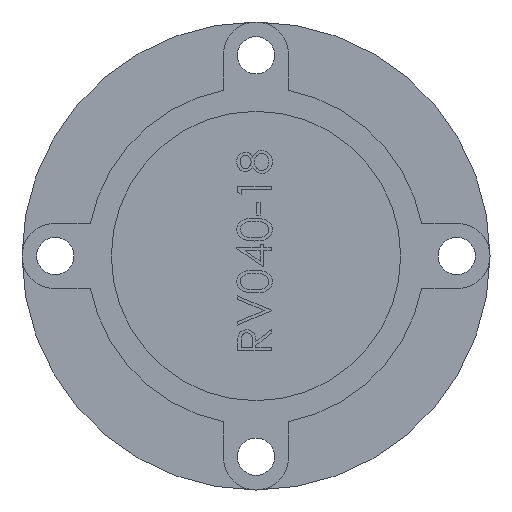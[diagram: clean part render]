
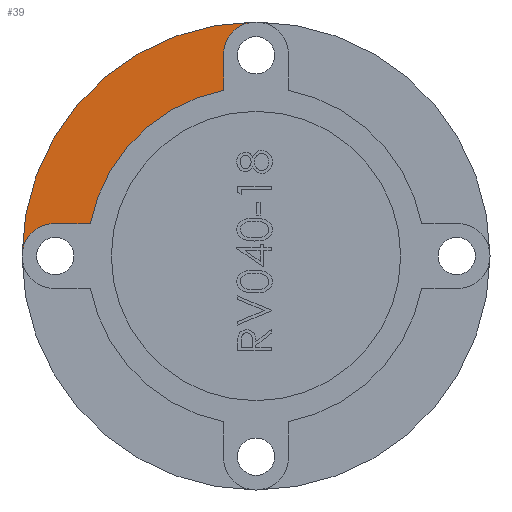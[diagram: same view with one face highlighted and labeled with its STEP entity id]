
A CAD part, left-side view. The second image highlights one B-rep face of the part: STEP entity #39.
In plain terms, the highlighted planar face has unit normal (-1, 0, 0).
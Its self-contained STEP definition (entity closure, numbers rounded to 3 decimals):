
#39 = ADVANCED_FACE ( 'NONE', ( #4384 ), #591, .F. ) ;
#591 = PLANE ( 'NONE',  #4389 ) ;
#592 = CARTESIAN_POINT ( 'NONE',  ( 12.7, 31.75, 0. ) ) ;
#593 = DIRECTION ( 'NONE',  ( 0., 0., -1. ) ) ;
#595 = DIRECTION ( 'NONE',  ( 1., 0., 0. ) ) ;
#856 = ORIENTED_EDGE ( 'NONE', *, *, #6035, .F. ) ;
#857 = ORIENTED_EDGE ( 'NONE', *, *, #5961, .T. ) ;
#858 = ORIENTED_EDGE ( 'NONE', *, *, #6034, .F. ) ;
#859 = ORIENTED_EDGE ( 'NONE', *, *, #6036, .F. ) ;
#860 = ORIENTED_EDGE ( 'NONE', *, *, #6026, .F. ) ;
#861 = ORIENTED_EDGE ( 'NONE', *, *, #6037, .F. ) ;
#1373 = EDGE_LOOP ( 'NONE', ( #856, #858, #857, #859, #861, #860 ) ) ;
#1599 = VERTEX_POINT ( 'NONE', #4308 ) ;
#1601 = VERTEX_POINT ( 'NONE', #4306 ) ;
#1605 = VERTEX_POINT ( 'NONE', #4302 ) ;
#1608 = VERTEX_POINT ( 'NONE', #4299 ) ;
#1697 = VERTEX_POINT ( 'NONE', #4208 ) ;
#1698 = VERTEX_POINT ( 'NONE', #4207 ) ;
#1940 = AXIS2_PLACEMENT_3D ( 'NONE', #2094, #2027, #2026 ) ;
#1992 = DIRECTION ( 'NONE',  ( 0., 1., 0. ) ) ;
#1993 = CARTESIAN_POINT ( 'NONE',  ( 12.7, 37.9, 6.1 ) ) ;
#1994 = LINE ( 'NONE', #1993, #6740 ) ;
#1996 = DIRECTION ( 'NONE',  ( 0., 0., 1. ) ) ;
#1997 = DIRECTION ( 'NONE',  ( -1., 0., 0. ) ) ;
#1998 = DIRECTION ( 'NONE',  ( 0., 0., -1. ) ) ;
#1999 = CARTESIAN_POINT ( 'NONE',  ( 12.7, 6.1, 37.9 ) ) ;
#2000 = LINE ( 'NONE', #1999, #6738 ) ;
#2001 = CARTESIAN_POINT ( 'NONE',  ( 12.7, 37.9, 0. ) ) ;
#2002 = DIRECTION ( 'NONE',  ( 0., -1., 0. ) ) ;
#2003 = DIRECTION ( 'NONE',  ( -1., 0., 0. ) ) ;
#2004 = CARTESIAN_POINT ( 'NONE',  ( 12.7, 0., 37.9 ) ) ;
#2026 = DIRECTION ( 'NONE',  ( 0., 0., 1. ) ) ;
#2027 = DIRECTION ( 'NONE',  ( -1., 0., 0. ) ) ;
#2094 = CARTESIAN_POINT ( 'NONE',  ( 12.7, 0., 0. ) ) ;
#2591 = DIRECTION ( 'NONE',  ( 0., 0., 1. ) ) ;
#2592 = DIRECTION ( 'NONE',  ( -1., 0., 0. ) ) ;
#2593 = CARTESIAN_POINT ( 'NONE',  ( 12.7, 0., 0. ) ) ;
#4207 = CARTESIAN_POINT ( 'NONE',  ( 12.7, 0., 44. ) ) ;
#4208 = CARTESIAN_POINT ( 'NONE',  ( 12.7, 44., 0. ) ) ;
#4299 = CARTESIAN_POINT ( 'NONE',  ( 12.7, 37.9, 6.1 ) ) ;
#4302 = CARTESIAN_POINT ( 'NONE',  ( 12.7, 6.1, 37.9 ) ) ;
#4306 = CARTESIAN_POINT ( 'NONE',  ( 12.7, 31.159, 6.1 ) ) ;
#4308 = CARTESIAN_POINT ( 'NONE',  ( 12.7, 6.1, 31.159 ) ) ;
#4384 = FACE_OUTER_BOUND ( 'NONE', #1373, .T. ) ;
#4389 = AXIS2_PLACEMENT_3D ( 'NONE', #592, #595, #593 ) ;
#4435 = AXIS2_PLACEMENT_3D ( 'NONE', #2593, #2592, #2591 ) ;
#5732 = CIRCLE ( 'NONE', #6728, 6.1 ) ;
#5733 = CIRCLE ( 'NONE', #6726, 6.1 ) ;
#5737 = CIRCLE ( 'NONE', #1940, 31.75 ) ;
#5742 = CIRCLE ( 'NONE', #4435, 44. ) ;
#5961 = EDGE_CURVE ( 'NONE', #1698, #1697, #5742, .T. ) ;
#6026 = EDGE_CURVE ( 'NONE', #1599, #1601, #5737, .T. ) ;
#6034 = EDGE_CURVE ( 'NONE', #1698, #1605, #5733, .T. ) ;
#6035 = EDGE_CURVE ( 'NONE', #1605, #1599, #2000, .T. ) ;
#6036 = EDGE_CURVE ( 'NONE', #1608, #1697, #5732, .T. ) ;
#6037 = EDGE_CURVE ( 'NONE', #1601, #1608, #1994, .T. ) ;
#6726 = AXIS2_PLACEMENT_3D ( 'NONE', #2004, #2003, #2002 ) ;
#6728 = AXIS2_PLACEMENT_3D ( 'NONE', #2001, #1997, #1996 ) ;
#6738 = VECTOR ( 'NONE', #1998, 1000. ) ;
#6740 = VECTOR ( 'NONE', #1992, 1000. ) ;
